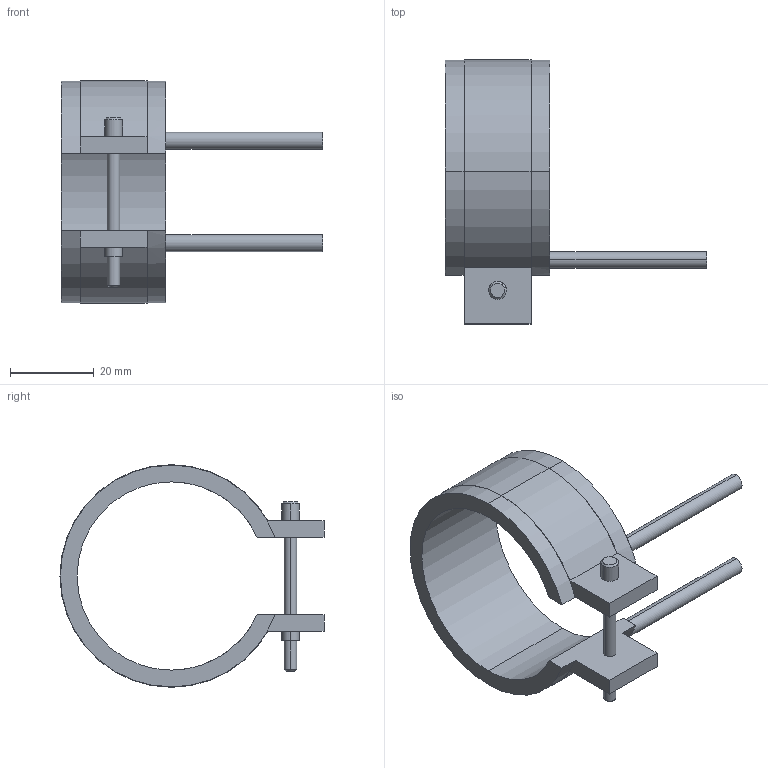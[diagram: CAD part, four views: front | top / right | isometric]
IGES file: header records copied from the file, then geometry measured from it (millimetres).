
Start section: START RECORD GO HERE.
Global section: file name: 14045025.igs; native system: DASSAULT SYSTEMES CATIA V5 R20 - www.3ds.com; preprocessor: CATIA Version 5 Release 20 ; author: Utente; organization: NB04-ASUS; date: 20210331.140127; units: millimetre
Bounding box: 62.5 x 63.1 x 53.2 mm (x, y, z)
Surface area: 10327.3 mm2 (no closed solid volume)
Topology: 0 solids, 0 shells, 45 faces, 232 edges, 232 vertices
Faces by surface type: revolution 28, plane 17
